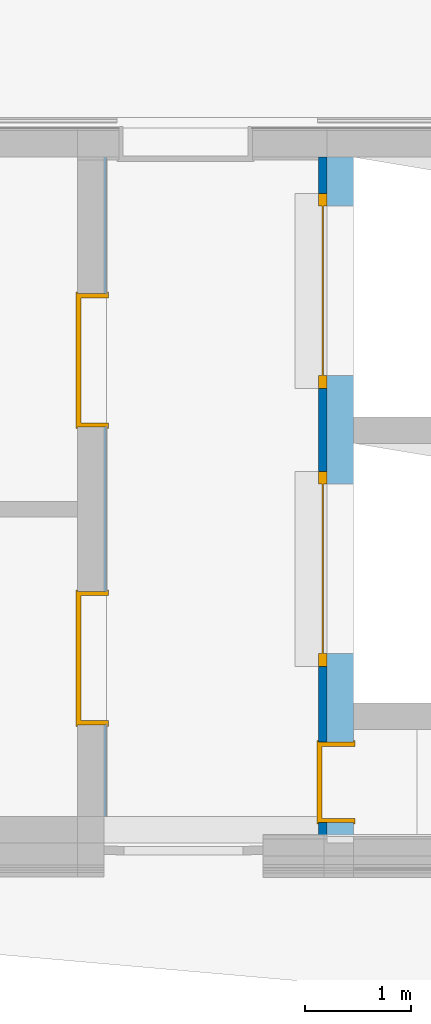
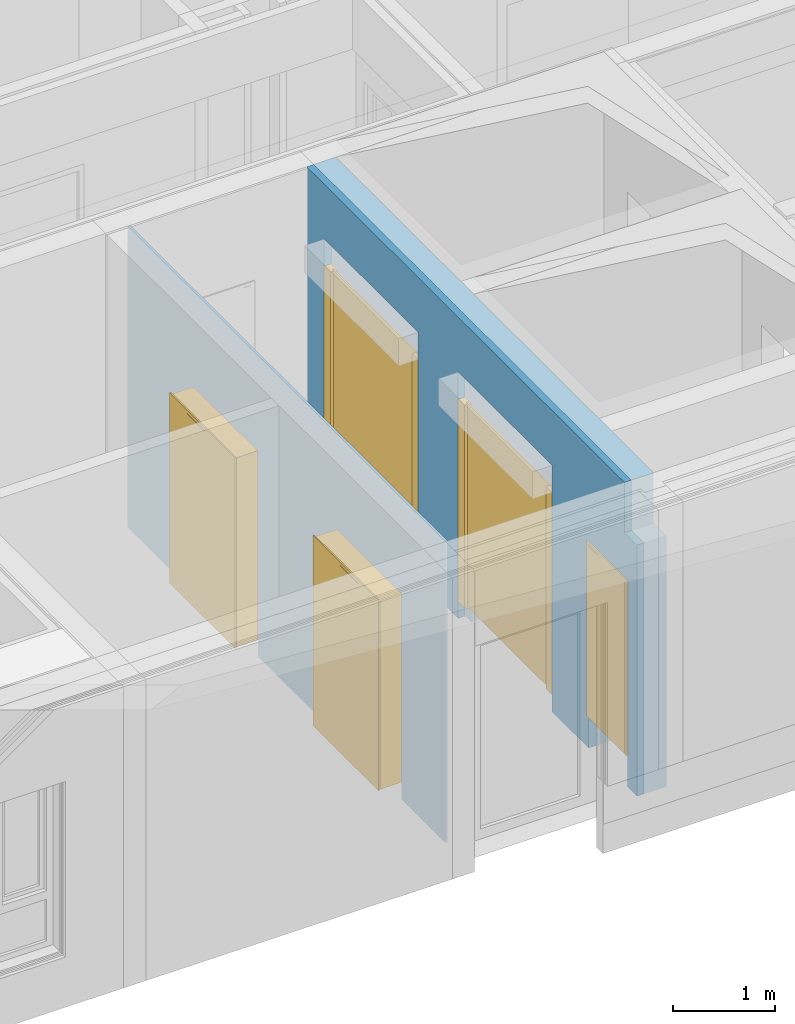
# One storey, part 88 of 207: 5 doors, 1 wall, 8 openings, plus 2 elements that do not belong to this part.
"""IFC4 building model written with IfcOpenShell, lengths in metres."""

from ifc_helpers import new_model, entity, si_unit, converted_unit, derived_unit, frame, frame_2d, origin, origin_with_axes, place, context, subcontext, project, spatial, polyline, rectangle, outline, extrude, clip, bounded_halfspace, faceted_brep, source, transform, mapped, material, type_object, element, fill, save


model = new_model("IFC4")

# Units and contexts
model_context = context("Model", 3, precision=1e-05, world=origin())
body_context = subcontext(model_context, "Body", "Model", "MODEL_VIEW")
ifc_project = project(units=[si_unit("LENGTHUNIT", "METRE"), si_unit("AREAUNIT", "SQUARE_METRE"), si_unit("VOLUMEUNIT", "CUBIC_METRE"), si_unit("MASSUNIT", "GRAM", prefix="KILO"), converted_unit("PLANEANGLEUNIT", "DEGREE", entity("IfcPlaneAngleMeasure", 0.0174532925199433), si_unit("PLANEANGLEUNIT", "RADIAN"), dimensions=[0, 0, 0, 0, 0, 0, 0]), derived_unit("THERMALTRANSMITTANCEUNIT", [(si_unit("POWERUNIT", "WATT"), 1), (si_unit("THERMODYNAMICTEMPERATUREUNIT", "KELVIN"), -1), (si_unit("LENGTHUNIT", "METRE"), -2)]), derived_unit("VOLUMETRICFLOWRATEUNIT", [(si_unit("LENGTHUNIT", "METRE"), 3), (converted_unit("TIMEUNIT", "hour", entity("IfcTimeMeasure", 3600.0), si_unit("TIMEUNIT", "SECOND"), dimensions=[0, 0, 1, 0, 0, 0, 0]), -1), (si_unit("LENGTHUNIT", "METRE"), -1)])], contexts=[model_context])

# Site, building, storey
site_placement = place(None, origin())
site = spatial("IfcSite", under=ifc_project, at=site_placement, Name="Psychiatrie Neubau Wunstorf", CompositionType="ELEMENT")
building_placement = place(site_placement, origin())
building = spatial("IfcBuilding", under=site, at=building_placement, Name="Neubau H2 Stationsgebäude", CompositionType="ELEMENT")
storey_placement = place(building_placement, frame((0.0, 0.0, -0.2)))
storey = spatial("IfcBuildingStorey", under=building, at=storey_placement, Name="H2 Ebene 0", CompositionType="ELEMENT", Elevation=-0.2)

# Wall, openings, doors
ifc_material_1 = material(Name="WI-LB")
wall_1_placement = place(storey_placement, frame((44.9410048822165, -5.94500030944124, 0.0), z_axis=(0.0, 0.0, 1.0), x_axis=(0.0, 1.0, 0.0)))
wall_1 = element("IfcWall", 1, at=wall_1_placement, inside=storey, material=ifc_material_1, context=body_context, shape_type="SweptSolid", body=[
    extrude(rectangle(XDim=6.22000030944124, YDim=0.025, at=frame_2d((3.11000015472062, 0.0125), x_axis=(1.0, 0.0))), origin_with_axes(), (0.0, 0.0, 1.0), 3.6),
])
opening_1_placement = place(wall_1_placement, frame((0.862499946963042, 0.0, 0.0), z_axis=(0.0, 1.0, 0.0), x_axis=(0.0, 0.0, 1.0)))
opening_1 = element("IfcOpeningElement", 2, at=opening_1_placement, cuts=wall_1, Name="SMT", ObjectType="Opening", context=body_context, shape_type="SweptSolid", body=[
    extrude(outline(polyline([(2.46, 1.26), (2.46, 0.0), (0.0, 0.0), (0.0, 1.26), (2.46, 1.26)])), origin_with_axes(), (0.0, 0.0, 1.0), 0.025),
])
opening_2_placement = place(wall_1_placement, frame((3.67249994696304, 0.0, 0.0), z_axis=(0.0, 1.0, 0.0), x_axis=(0.0, 0.0, 1.0)))
opening_2 = element("IfcOpeningElement", 3, at=opening_2_placement, cuts=wall_1, Name="SMT", ObjectType="Opening", context=body_context, shape_type="SweptSolid", body=[
    extrude(outline(polyline([(2.46, 1.26), (2.46, 0.0), (0.0, 0.0), (0.0, 1.26), (2.46, 1.26)])), origin_with_axes(), (0.0, 0.0, 1.0), 0.025),
])
ifc_material_2 = material(Name="TI-1F-UZ-ZK")
door_type_1 = type_object("IfcDoorType", Name="SMT", OperationType="SINGLE_SWING_RIGHT", ParameterTakesPrecedence=False, PredefinedType="DOOR")
shared_shape_1 = source(origin_with_axes(), body_context, "Body", "Brep", [
    faceted_brep([(1.26, -0.0149999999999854, 2.46), (1.26, -0.0149999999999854, 0.2), (1.22, -0.0149999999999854, 0.2), (1.22, -0.0149999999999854, 2.46), (1.26, 0.290000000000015, 0.2), (1.26, 0.290000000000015, 2.46), (1.22, 0.290000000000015, 2.46), (1.22, 0.290000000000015, 0.2)], [[[0, 1, 2, 3]], [[4, 5, 6, 7]], [[1, 0, 5, 4]], [[2, 1, 4, 7]], [[3, 2, 7, 6]], [[0, 3, 6, 5]]], orient=[[False], [False], [False], [False], [False], [False]]),
    faceted_brep([(1.26, -0.0149999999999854, 2.475), (1.275, -0.0149999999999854, 2.475), (1.275, -0.0149999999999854, 0.2), (1.26, -0.0149999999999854, 0.2), (1.26, 0.0, 0.2), (1.275, 0.0, 0.2), (1.275, 0.0, 2.475), (1.26, 0.0, 2.475)], [[[0, 1, 2, 3]], [[4, 5, 6, 7]], [[3, 4, 7, 0]], [[2, 5, 4, 3]], [[1, 6, 5, 2]], [[0, 7, 6, 1]]], orient=[[False], [False], [False], [False], [False], [False]]),
    faceted_brep([(1.26, 0.275000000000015, 2.475), (1.275, 0.275000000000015, 2.475), (1.275, 0.275000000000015, 0.2), (1.26, 0.275000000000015, 0.2), (1.26, 0.290000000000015, 0.2), (1.275, 0.290000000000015, 0.2), (1.275, 0.290000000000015, 2.475), (1.26, 0.290000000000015, 2.475)], [[[0, 1, 2, 3]], [[4, 5, 6, 7]], [[3, 4, 7, 0]], [[2, 5, 4, 3]], [[1, 6, 5, 2]], [[0, 7, 6, 1]]], orient=[[False], [False], [False], [False], [False], [False]]),
    faceted_brep([(0.0400000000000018, -0.0149999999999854, 2.46), (0.0400000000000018, -0.0149999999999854, 0.2), (0.0, -0.0149999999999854, 0.2), (0.0, -0.0149999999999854, 2.46), (0.0400000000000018, 0.290000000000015, 0.2), (0.0400000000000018, 0.290000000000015, 2.46), (0.0, 0.290000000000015, 2.46), (0.0, 0.290000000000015, 0.2)], [[[0, 1, 2, 3]], [[4, 5, 6, 7]], [[1, 0, 5, 4]], [[2, 1, 4, 7]], [[3, 2, 7, 6]], [[0, 3, 6, 5]]], orient=[[False], [False], [False], [False], [False], [False]]),
    faceted_brep([(0.0, -0.0149999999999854, 2.475), (0.0, -0.0149999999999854, 0.2), (-0.0149999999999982, -0.0149999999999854, 0.2), (-0.0149999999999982, -0.0149999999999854, 2.475), (0.0, 0.0, 0.2), (0.0, 0.0, 2.475), (-0.0149999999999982, 0.0, 2.475), (-0.0149999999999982, 0.0, 0.2)], [[[0, 1, 2, 3]], [[4, 5, 6, 7]], [[1, 0, 5, 4]], [[2, 1, 4, 7]], [[3, 2, 7, 6]], [[0, 3, 6, 5]]], orient=[[False], [False], [False], [False], [False], [False]]),
    faceted_brep([(0.0, 0.275000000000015, 2.475), (0.0, 0.275000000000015, 0.2), (-0.0149999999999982, 0.275000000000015, 0.2), (-0.0149999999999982, 0.275000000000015, 2.475), (0.0, 0.290000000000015, 0.2), (0.0, 0.290000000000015, 2.475), (-0.0149999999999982, 0.290000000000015, 2.475), (-0.0149999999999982, 0.290000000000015, 0.2)], [[[0, 1, 2, 3]], [[4, 5, 6, 7]], [[1, 0, 5, 4]], [[2, 1, 4, 7]], [[3, 2, 7, 6]], [[0, 3, 6, 5]]], orient=[[False], [False], [False], [False], [False], [False]]),
    faceted_brep([(1.22, -0.0149999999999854, 2.46), (1.22, -0.0149999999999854, 2.42), (0.0400000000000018, -0.0149999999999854, 2.42), (0.0400000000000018, -0.0149999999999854, 2.46), (1.22, 0.290000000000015, 2.42), (1.22, 0.290000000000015, 2.46), (0.0400000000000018, 0.290000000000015, 2.46), (0.0400000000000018, 0.290000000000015, 2.42)], [[[0, 1, 2, 3]], [[4, 5, 6, 7]], [[1, 0, 5, 4]], [[2, 1, 4, 7]], [[3, 2, 7, 6]], [[0, 3, 6, 5]]], orient=[[False], [False], [False], [False], [False], [False]]),
    faceted_brep([(1.26, -0.0149999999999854, 2.475), (1.26, -0.0149999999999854, 2.46), (0.0, -0.0149999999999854, 2.46), (0.0, -0.0149999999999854, 2.475), (1.26, 0.0, 2.46), (1.26, 0.0, 2.475), (0.0, 0.0, 2.475), (0.0, 0.0, 2.46)], [[[0, 1, 2, 3]], [[4, 5, 6, 7]], [[1, 0, 5, 4]], [[2, 1, 4, 7]], [[3, 2, 7, 6]], [[0, 3, 6, 5]]], orient=[[False], [False], [False], [False], [False], [False]]),
    faceted_brep([(1.26, 0.275000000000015, 2.475), (1.26, 0.275000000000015, 2.46), (0.0, 0.275000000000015, 2.46), (0.0, 0.275000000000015, 2.475), (1.26, 0.290000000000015, 2.46), (1.26, 0.290000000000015, 2.475), (0.0, 0.290000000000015, 2.475), (0.0, 0.290000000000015, 2.46)], [[[0, 1, 2, 3]], [[4, 5, 6, 7]], [[1, 0, 5, 4]], [[2, 1, 4, 7]], [[3, 2, 7, 6]], [[0, 3, 6, 5]]], orient=[[False], [False], [False], [False], [False], [False]]),
    faceted_brep([(1.235, 0.241000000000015, 2.435), (1.235, 0.241000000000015, 0.2), (0.0250000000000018, 0.241000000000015, 0.2), (0.0250000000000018, 0.241000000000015, 2.435), (1.235, 0.291000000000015, 0.2), (1.235, 0.291000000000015, 2.435), (0.0250000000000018, 0.291000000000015, 2.435), (0.0250000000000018, 0.291000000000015, 0.2)], [[[0, 1, 2, 3]], [[4, 5, 6, 7]], [[1, 0, 5, 4]], [[2, 1, 4, 7]], [[3, 2, 7, 6]], [[0, 3, 6, 5]]], orient=[[False], [False], [False], [False], [False], [False]]),
])
door_1_placement = place(opening_1_placement, frame((0.0, 0.0, 0.0), z_axis=(1.0, 0.0, 0.0), x_axis=(0.0, 1.0, 0.0)))
door_1 = element("IfcDoor", 4, at=door_1_placement, inside=storey, type_object=door_type_1, material=ifc_material_2, Name="SMT", OverallHeight=2.46, OverallWidth=1.26, context=body_context, shape_type="MappedRepresentation", body=[
    mapped(shared_shape_1, transform((0.0, 0.0, 0.0), x_axis=(1.0, 0.0, 0.0), y_axis=(0.0, 1.0, 0.0), z_axis=(0.0, 0.0, 1.0), scale=1.0)),
])
fill(opening_1, door_1)
ifc_material_3 = material(Name="TI-1F-UZ-ZK")
door_type_2 = type_object("IfcDoorType", Name="SMT", OperationType="SINGLE_SWING_RIGHT", ParameterTakesPrecedence=False, PredefinedType="DOOR")
shared_shape_2 = source(origin_with_axes(), body_context, "Body", "Brep", [
    faceted_brep([(0.0, -0.0149999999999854, 2.46), (0.0400000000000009, -0.0149999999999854, 2.46), (0.0400000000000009, -0.0149999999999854, 0.2), (0.0, -0.0149999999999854, 0.2), (0.0, 0.290000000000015, 0.2), (0.0400000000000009, 0.290000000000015, 0.2), (0.0400000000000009, 0.290000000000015, 2.46), (0.0, 0.290000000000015, 2.46)], [[[0, 1, 2, 3]], [[4, 5, 6, 7]], [[3, 4, 7, 0]], [[2, 5, 4, 3]], [[1, 6, 5, 2]], [[0, 7, 6, 1]]], orient=[[False], [False], [False], [False], [False], [False]]),
    faceted_brep([(0.0, -0.0149999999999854, 2.475), (0.0, -0.0149999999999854, 0.2), (-0.0149999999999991, -0.0149999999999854, 0.2), (-0.0149999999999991, -0.0149999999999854, 2.475), (0.0, 0.0, 0.2), (0.0, 0.0, 2.475), (-0.0149999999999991, 0.0, 2.475), (-0.0149999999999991, 0.0, 0.2)], [[[0, 1, 2, 3]], [[4, 5, 6, 7]], [[1, 0, 5, 4]], [[2, 1, 4, 7]], [[3, 2, 7, 6]], [[0, 3, 6, 5]]], orient=[[False], [False], [False], [False], [False], [False]]),
    faceted_brep([(0.0, 0.275000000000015, 2.475), (0.0, 0.275000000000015, 0.2), (-0.0149999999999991, 0.275000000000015, 0.2), (-0.0149999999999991, 0.275000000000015, 2.475), (0.0, 0.290000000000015, 0.2), (0.0, 0.290000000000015, 2.475), (-0.0149999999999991, 0.290000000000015, 2.475), (-0.0149999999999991, 0.290000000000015, 0.2)], [[[0, 1, 2, 3]], [[4, 5, 6, 7]], [[1, 0, 5, 4]], [[2, 1, 4, 7]], [[3, 2, 7, 6]], [[0, 3, 6, 5]]], orient=[[False], [False], [False], [False], [False], [False]]),
    faceted_brep([(1.22, -0.0149999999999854, 2.46), (1.26, -0.0149999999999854, 2.46), (1.26, -0.0149999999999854, 0.2), (1.22, -0.0149999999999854, 0.2), (1.22, 0.290000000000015, 0.2), (1.26, 0.290000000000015, 0.2), (1.26, 0.290000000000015, 2.46), (1.22, 0.290000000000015, 2.46)], [[[0, 1, 2, 3]], [[4, 5, 6, 7]], [[3, 4, 7, 0]], [[2, 5, 4, 3]], [[1, 6, 5, 2]], [[0, 7, 6, 1]]], orient=[[False], [False], [False], [False], [False], [False]]),
    faceted_brep([(1.26, -0.0149999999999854, 2.475), (1.275, -0.0149999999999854, 2.475), (1.275, -0.0149999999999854, 0.2), (1.26, -0.0149999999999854, 0.2), (1.26, 0.0, 0.2), (1.275, 0.0, 0.2), (1.275, 0.0, 2.475), (1.26, 0.0, 2.475)], [[[0, 1, 2, 3]], [[4, 5, 6, 7]], [[3, 4, 7, 0]], [[2, 5, 4, 3]], [[1, 6, 5, 2]], [[0, 7, 6, 1]]], orient=[[False], [False], [False], [False], [False], [False]]),
    faceted_brep([(1.26, 0.275000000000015, 2.475), (1.275, 0.275000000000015, 2.475), (1.275, 0.275000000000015, 0.2), (1.26, 0.275000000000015, 0.2), (1.26, 0.290000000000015, 0.2), (1.275, 0.290000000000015, 0.2), (1.275, 0.290000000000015, 2.475), (1.26, 0.290000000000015, 2.475)], [[[0, 1, 2, 3]], [[4, 5, 6, 7]], [[3, 4, 7, 0]], [[2, 5, 4, 3]], [[1, 6, 5, 2]], [[0, 7, 6, 1]]], orient=[[False], [False], [False], [False], [False], [False]]),
    faceted_brep([(0.0400000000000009, -0.0149999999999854, 2.46), (1.22, -0.0149999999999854, 2.46), (1.22, -0.0149999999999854, 2.42), (0.0400000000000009, -0.0149999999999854, 2.42), (0.0400000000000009, 0.290000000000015, 2.42), (1.22, 0.290000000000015, 2.42), (1.22, 0.290000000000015, 2.46), (0.0400000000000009, 0.290000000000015, 2.46)], [[[0, 1, 2, 3]], [[4, 5, 6, 7]], [[3, 4, 7, 0]], [[2, 5, 4, 3]], [[1, 6, 5, 2]], [[0, 7, 6, 1]]], orient=[[False], [False], [False], [False], [False], [False]]),
    faceted_brep([(0.0, -0.0149999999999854, 2.475), (1.26, -0.0149999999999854, 2.475), (1.26, -0.0149999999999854, 2.46), (0.0, -0.0149999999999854, 2.46), (0.0, 0.0, 2.46), (1.26, 0.0, 2.46), (1.26, 0.0, 2.475), (0.0, 0.0, 2.475)], [[[0, 1, 2, 3]], [[4, 5, 6, 7]], [[3, 4, 7, 0]], [[2, 5, 4, 3]], [[1, 6, 5, 2]], [[0, 7, 6, 1]]], orient=[[False], [False], [False], [False], [False], [False]]),
    faceted_brep([(0.0, 0.275000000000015, 2.475), (1.26, 0.275000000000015, 2.475), (1.26, 0.275000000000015, 2.46), (0.0, 0.275000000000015, 2.46), (0.0, 0.290000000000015, 2.46), (1.26, 0.290000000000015, 2.46), (1.26, 0.290000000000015, 2.475), (0.0, 0.290000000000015, 2.475)], [[[0, 1, 2, 3]], [[4, 5, 6, 7]], [[3, 4, 7, 0]], [[2, 5, 4, 3]], [[1, 6, 5, 2]], [[0, 7, 6, 1]]], orient=[[False], [False], [False], [False], [False], [False]]),
    faceted_brep([(0.0250000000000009, 0.241000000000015, 2.435), (1.235, 0.241000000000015, 2.435), (1.235, 0.241000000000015, 0.2), (0.0250000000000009, 0.241000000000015, 0.2), (0.0250000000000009, 0.291000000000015, 0.2), (1.235, 0.291000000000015, 0.2), (1.235, 0.291000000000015, 2.435), (0.0250000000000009, 0.291000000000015, 2.435)], [[[0, 1, 2, 3]], [[4, 5, 6, 7]], [[3, 4, 7, 0]], [[2, 5, 4, 3]], [[1, 6, 5, 2]], [[0, 7, 6, 1]]], orient=[[False], [False], [False], [False], [False], [False]]),
])
door_2_placement = place(opening_2_placement, frame((0.0, 0.0, 0.0), z_axis=(1.0, 0.0, 0.0), x_axis=(0.0, 1.0, 0.0)))
door_2 = element("IfcDoor", 5, at=door_2_placement, inside=storey, type_object=door_type_2, material=ifc_material_3, Name="SMT", OverallHeight=2.46, OverallWidth=1.26, context=body_context, shape_type="MappedRepresentation", body=[
    mapped(shared_shape_2, transform((0.0, 0.0, 0.0), x_axis=(1.0, 0.0, 0.0), y_axis=(0.0, 1.0, 0.0), z_axis=(0.0, 0.0, 1.0), scale=1.0)),
])
fill(opening_2, door_2)

# Wall, openings, door
ifc_material_4 = material(Name="WI-STB")
wall_2_placement = place(storey_placement, frame((47.2700048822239, -6.19500030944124, 0.0), z_axis=(0.0, 0.0, 1.0), x_axis=(0.0, 1.0, 0.0)))
wall_2 = element("IfcWall", 6, at=wall_2_placement, inside=storey, material=ifc_material_4, context=body_context, shape_type="Clipping", body=[
    clip(extrude(rectangle(XDim=6.47000030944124, YDim=0.25, at=frame_2d((3.23500015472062, 0.125), x_axis=(1.0, 0.0))), origin_with_axes(), (0.0, 0.0, 1.0), 3.6), bounded_halfspace(frame((0.125, 0.125, 3.0), z_axis=(0.0, 0.0, -1.0), x_axis=(-1.0, 0.0, 0.0)), True, origin_with_axes(), polyline([(0.25, 0.25), (0.0, 0.25), (0.0, 0.0), (0.25, 0.0), (0.25, 0.25)]))),
])
opening_3_placement = place(wall_2_placement, frame((6.00764812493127, 0.25, 0.0), z_axis=(0.0, -1.0, 0.0), x_axis=(0.0, 0.0, 1.0)))
element("IfcOpeningElement", 7, at=opening_3_placement, cuts=wall_2, Name="Türöffnung", ObjectType="Opening", context=body_context, shape_type="SweptSolid", body=[
    extrude(outline(polyline([(2.45, 1.6), (2.45, 0.0), (0.0, 0.0), (0.0, 1.6), (2.45, 1.6)])), origin_with_axes(), (0.0, 0.0, 1.0), 0.25),
])
opening_4_placement = place(wall_2_placement, frame((3.38501220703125, 0.25, 0.0), z_axis=(0.0, -1.0, 0.0), x_axis=(0.0, 0.0, 1.0)))
element("IfcOpeningElement", 8, at=opening_4_placement, cuts=wall_2, Name="Türöffnung", ObjectType="Opening", context=body_context, shape_type="SweptSolid", body=[
    extrude(outline(polyline([(2.45, 1.6), (2.45, 0.0), (0.0, 0.0), (0.0, 1.6), (2.45, 1.6)])), origin_with_axes(), (0.0, 0.0, 1.0), 0.25),
])
opening_5_placement = place(wall_2_placement, frame((0.951, 0.25, 0.0), z_axis=(0.0, -1.0, 0.0), x_axis=(0.0, 0.0, 1.0)))
opening_5 = element("IfcOpeningElement", 9, at=opening_5_placement, cuts=wall_2, Name="Türöffnung", ObjectType="Opening", context=body_context, shape_type="SweptSolid", body=[
    extrude(outline(polyline([(2.46, 0.76), (2.46, 0.0), (0.0, 0.0), (0.0, 0.76), (2.46, 0.76)])), origin_with_axes(), (0.0, 0.0, 1.0), 0.25),
])
ifc_material_5 = material(Name="TI-1F-UZ-D")
door_type_3 = type_object("IfcDoorType", Name="SMT", OperationType="SINGLE_SWING_RIGHT", ParameterTakesPrecedence=False, PredefinedType="DOOR")
shared_shape_3 = source(origin_with_axes(), body_context, "Body", "Brep", [
    faceted_brep([(0.0, -0.0149999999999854, 2.46), (0.0400000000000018, -0.0149999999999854, 2.46), (0.0400000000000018, -0.0149999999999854, 0.38), (0.0, -0.0149999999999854, 0.38), (0.0, 0.345000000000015, 0.38), (0.0400000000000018, 0.345000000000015, 0.38), (0.0400000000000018, 0.345000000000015, 2.46), (0.0, 0.345000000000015, 2.46)], [[[0, 1, 2, 3]], [[4, 5, 6, 7]], [[3, 4, 7, 0]], [[2, 5, 4, 3]], [[1, 6, 5, 2]], [[0, 7, 6, 1]]], orient=[[False], [False], [False], [False], [False], [False]]),
    faceted_brep([(0.0, -0.0149999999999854, 2.475), (0.0, -0.0149999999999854, 0.38), (-0.0149999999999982, -0.0149999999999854, 0.38), (-0.0149999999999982, -0.0149999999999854, 2.475), (0.0, 0.0, 0.38), (0.0, 0.0, 2.475), (-0.0149999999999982, 0.0, 2.475), (-0.0149999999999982, 0.0, 0.38)], [[[0, 1, 2, 3]], [[4, 5, 6, 7]], [[1, 0, 5, 4]], [[2, 1, 4, 7]], [[3, 2, 7, 6]], [[0, 3, 6, 5]]], orient=[[False], [False], [False], [False], [False], [False]]),
    faceted_brep([(0.0, 0.330000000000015, 2.475), (0.0, 0.330000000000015, 0.38), (-0.0149999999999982, 0.330000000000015, 0.38), (-0.0149999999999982, 0.330000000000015, 2.475), (0.0, 0.345000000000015, 0.38), (0.0, 0.345000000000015, 2.475), (-0.0149999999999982, 0.345000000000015, 2.475), (-0.0149999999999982, 0.345000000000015, 0.38)], [[[0, 1, 2, 3]], [[4, 5, 6, 7]], [[1, 0, 5, 4]], [[2, 1, 4, 7]], [[3, 2, 7, 6]], [[0, 3, 6, 5]]], orient=[[False], [False], [False], [False], [False], [False]]),
    faceted_brep([(0.720000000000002, -0.0149999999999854, 2.46), (0.760000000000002, -0.0149999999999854, 2.46), (0.760000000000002, -0.0149999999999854, 0.38), (0.720000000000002, -0.0149999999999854, 0.38), (0.720000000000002, 0.345000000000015, 0.38), (0.760000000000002, 0.345000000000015, 0.38), (0.760000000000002, 0.345000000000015, 2.46), (0.720000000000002, 0.345000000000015, 2.46)], [[[0, 1, 2, 3]], [[4, 5, 6, 7]], [[3, 4, 7, 0]], [[2, 5, 4, 3]], [[1, 6, 5, 2]], [[0, 7, 6, 1]]], orient=[[False], [False], [False], [False], [False], [False]]),
    faceted_brep([(0.760000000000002, -0.0149999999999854, 2.475), (0.775000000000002, -0.0149999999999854, 2.475), (0.775000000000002, -0.0149999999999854, 0.38), (0.760000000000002, -0.0149999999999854, 0.38), (0.760000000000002, 0.0, 0.38), (0.775000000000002, 0.0, 0.38), (0.775000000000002, 0.0, 2.475), (0.760000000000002, 0.0, 2.475)], [[[0, 1, 2, 3]], [[4, 5, 6, 7]], [[3, 4, 7, 0]], [[2, 5, 4, 3]], [[1, 6, 5, 2]], [[0, 7, 6, 1]]], orient=[[False], [False], [False], [False], [False], [False]]),
    faceted_brep([(0.760000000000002, 0.330000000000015, 2.475), (0.775000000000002, 0.330000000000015, 2.475), (0.775000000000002, 0.330000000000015, 0.38), (0.760000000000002, 0.330000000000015, 0.38), (0.760000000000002, 0.345000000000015, 0.38), (0.775000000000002, 0.345000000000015, 0.38), (0.775000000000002, 0.345000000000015, 2.475), (0.760000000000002, 0.345000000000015, 2.475)], [[[0, 1, 2, 3]], [[4, 5, 6, 7]], [[3, 4, 7, 0]], [[2, 5, 4, 3]], [[1, 6, 5, 2]], [[0, 7, 6, 1]]], orient=[[False], [False], [False], [False], [False], [False]]),
    faceted_brep([(0.0400000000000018, -0.0149999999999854, 2.46), (0.720000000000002, -0.0149999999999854, 2.46), (0.720000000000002, -0.0149999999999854, 2.42), (0.0400000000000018, -0.0149999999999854, 2.42), (0.0400000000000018, 0.345000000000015, 2.42), (0.720000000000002, 0.345000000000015, 2.42), (0.720000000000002, 0.345000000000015, 2.46), (0.0400000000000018, 0.345000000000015, 2.46)], [[[0, 1, 2, 3]], [[4, 5, 6, 7]], [[3, 4, 7, 0]], [[2, 5, 4, 3]], [[1, 6, 5, 2]], [[0, 7, 6, 1]]], orient=[[False], [False], [False], [False], [False], [False]]),
    faceted_brep([(0.0, -0.0149999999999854, 2.475), (0.760000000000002, -0.0149999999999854, 2.475), (0.760000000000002, -0.0149999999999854, 2.46), (0.0, -0.0149999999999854, 2.46), (0.0, 0.0, 2.46), (0.760000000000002, 0.0, 2.46), (0.760000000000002, 0.0, 2.475), (0.0, 0.0, 2.475)], [[[0, 1, 2, 3]], [[4, 5, 6, 7]], [[3, 4, 7, 0]], [[2, 5, 4, 3]], [[1, 6, 5, 2]], [[0, 7, 6, 1]]], orient=[[False], [False], [False], [False], [False], [False]]),
    faceted_brep([(0.0, 0.330000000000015, 2.475), (0.760000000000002, 0.330000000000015, 2.475), (0.760000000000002, 0.330000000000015, 2.46), (0.0, 0.330000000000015, 2.46), (0.0, 0.345000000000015, 2.46), (0.760000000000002, 0.345000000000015, 2.46), (0.760000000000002, 0.345000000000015, 2.475), (0.0, 0.345000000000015, 2.475)], [[[0, 1, 2, 3]], [[4, 5, 6, 7]], [[3, 4, 7, 0]], [[2, 5, 4, 3]], [[1, 6, 5, 2]], [[0, 7, 6, 1]]], orient=[[False], [False], [False], [False], [False], [False]]),
    faceted_brep([(0.0250000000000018, 0.296000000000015, 2.435), (0.735000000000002, 0.296000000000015, 2.435), (0.735000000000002, 0.296000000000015, 0.38), (0.0250000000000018, 0.296000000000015, 0.38), (0.0250000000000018, 0.346000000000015, 0.38), (0.735000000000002, 0.346000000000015, 0.38), (0.735000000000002, 0.346000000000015, 2.435), (0.0250000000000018, 0.346000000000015, 2.435)], [[[0, 1, 2, 3]], [[4, 5, 6, 7]], [[3, 4, 7, 0]], [[2, 5, 4, 3]], [[1, 6, 5, 2]], [[0, 7, 6, 1]]], orient=[[False], [False], [False], [False], [False], [False]]),
])
door_3_placement = place(opening_5_placement, frame((0.0, 0.76, 0.25), z_axis=(1.0, 0.0, 0.0), x_axis=(0.0, -1.0, 0.0)))
door_3 = element("IfcDoor", 10, at=door_3_placement, inside=storey, type_object=door_type_3, material=ifc_material_5, Name="SMT", OverallHeight=2.46, OverallWidth=0.76, context=body_context, shape_type="MappedRepresentation", body=[
    mapped(shared_shape_3, transform((0.0, 0.0, 0.0), x_axis=(1.0, 0.0, 0.0), y_axis=(0.0, 1.0, 0.0), z_axis=(0.0, 0.0, 1.0), scale=1.0)),
])
fill(opening_5, door_3)

# Wall, openings, doors
ifc_material_6 = material(Name="WI-LB")
wall_3_placement = place(storey_placement, frame((46.9400048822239, -6.19500030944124, 0.0)))
wall_3 = element("IfcWall", 11, at=wall_3_placement, inside=storey, material=ifc_material_6, context=body_context, shape_type="Brep", body=[
    faceted_brep([(0.08, 0.25, 3.6), (0.08, 0.25, 3.0), (0.0, 0.25, 3.0), (0.0, 0.25, 3.6), (0.08, 0.0, 3.0), (0.0, 0.0, 3.0), (0.08, 3.50501220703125, 2.62), (0.08, 1.66501220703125, 2.62), (0.0, 1.66501220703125, 2.62), (0.0, 3.50501220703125, 2.62), (0.0, 3.50501220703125, 2.945), (0.0, 1.66501220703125, 2.945), (0.08, 1.66501220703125, 2.945), (0.08, 3.50501220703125, 2.945), (0.08, 6.12764812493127, 2.62), (0.08, 4.28764812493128, 2.62), (0.0, 4.28764812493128, 2.62), (0.0, 6.12764812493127, 2.62), (0.0, 6.12764812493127, 2.945), (0.0, 4.28764812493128, 2.945), (0.08, 4.28764812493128, 2.945), (0.08, 6.12764812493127, 2.945), (0.0, 6.47000030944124, 3.6), (0.08, 6.47000030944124, 3.6), (0.0, 0.0, 0.0), (0.0, 6.47000030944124, 0.0), (0.08, 6.47000030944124, 0.0), (0.08, 0.0, 0.0)], [[[0, 1, 2, 3]], [[2, 1, 4, 5]], [[6, 7, 8, 9]], [[10, 11, 12, 13]], [[13, 6, 9, 10]], [[11, 8, 7, 12]], [[14, 15, 16, 17]], [[18, 19, 20, 21]], [[21, 14, 17, 18]], [[19, 16, 15, 20]], [[22, 23, 0, 3]], [[5, 24, 25, 22, 3, 2], [8, 11, 10, 9], [16, 19, 18, 17]], [[25, 26, 23, 22]], [[1, 0, 23, 26, 27, 4], [6, 13, 12, 7], [14, 21, 20, 15]], [[4, 27, 24, 5]], [[24, 27, 26, 25]]], orient=[[False], [False], [False], [False], [False], [False], [False], [False], [False], [False], [False], [False, False, False], [False], [False, False, False], [False], [False]]),
])
opening_6_placement = place(wall_3_placement, frame((0.0, 3.50501220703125, 0.0), z_axis=(1.0, 0.0, 0.0), x_axis=(0.0, 0.0, 1.0)))
opening_6 = element("IfcOpeningElement", 12, at=opening_6_placement, cuts=wall_3, Name="Türöffnung", ObjectType="Opening", context=body_context, shape_type="SweptSolid", body=[
    extrude(outline(polyline([(2.62, 1.84), (2.62, 0.0), (0.0, 0.0), (0.0, 1.84), (2.62, 1.84)])), origin_with_axes(), (0.0, 0.0, 1.0), 0.08),
])
opening_7_placement = place(wall_3_placement, frame((0.0, 0.951, 0.0), z_axis=(1.0, 0.0, 0.0), x_axis=(0.0, 0.0, 1.0)))
element("IfcOpeningElement", 13, at=opening_7_placement, cuts=wall_3, Name="Türöffnung", ObjectType="Opening", context=body_context, shape_type="SweptSolid", body=[
    extrude(outline(polyline([(2.46, 0.76), (2.46, 0.0), (0.0, 0.0), (0.0, 0.76), (2.46, 0.76)])), origin_with_axes(), (0.0, 0.0, 1.0), 0.08),
])
opening_8_placement = place(wall_3_placement, frame((0.0, 6.12764812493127, 0.0), z_axis=(1.0, 0.0, 0.0), x_axis=(0.0, 0.0, 1.0)))
opening_8 = element("IfcOpeningElement", 14, at=opening_8_placement, cuts=wall_3, Name="Türöffnung", ObjectType="Opening", context=body_context, shape_type="SweptSolid", body=[
    extrude(outline(polyline([(2.62, 1.84), (2.62, 0.0), (0.0, 0.0), (0.0, 1.84), (2.62, 1.84)])), origin_with_axes(), (0.0, 0.0, 1.0), 0.08),
])
ifc_material_7 = material(Name="TI-1F-UZ-M-ZK")
shared_shape_4 = source(origin_with_axes(), body_context, "Body", "Brep", [
    faceted_brep([(1.63456423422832, 0.0150516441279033, 2.62), (1.63456423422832, 0.0150516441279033, 0.2), (1.51456423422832, 0.0150516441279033, 0.2), (1.51456423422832, 0.0150516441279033, 2.62), (1.63456423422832, 0.0950516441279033, 0.2), (1.63456423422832, 0.0950516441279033, 2.62), (1.51456423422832, 0.0950516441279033, 2.62), (1.51456423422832, 0.0950516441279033, 0.2)], [[[0, 1, 2, 3]], [[4, 5, 6, 7]], [[1, 0, 5, 4]], [[2, 1, 4, 7]], [[3, 2, 7, 6]], [[0, 3, 6, 5]]], orient=[[False], [False], [False], [False], [False], [False]]),
    faceted_brep([(-0.0854357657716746, 0.0150516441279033, 2.62), (-0.0854357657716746, 0.0150516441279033, 0.2), (-0.205435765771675, 0.0150516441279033, 0.2), (-0.205435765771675, 0.0150516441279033, 2.62), (-0.0854357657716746, 0.0950516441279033, 0.2), (-0.0854357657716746, 0.0950516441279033, 2.62), (-0.205435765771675, 0.0950516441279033, 2.62), (-0.205435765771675, 0.0950516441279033, 0.2)], [[[0, 1, 2, 3]], [[4, 5, 6, 7]], [[1, 0, 5, 4]], [[2, 1, 4, 7]], [[3, 2, 7, 6]], [[0, 3, 6, 5]]], orient=[[False], [False], [False], [False], [False], [False]]),
    faceted_brep([(1.52956423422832, 0.0460516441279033, 2.635), (1.52956423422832, 0.0460516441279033, 0.2), (-0.100435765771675, 0.0460516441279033, 0.2), (-0.100435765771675, 0.0460516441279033, 2.635), (1.52956423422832, 0.0610516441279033, 0.2), (1.52956423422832, 0.0610516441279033, 2.635), (-0.100435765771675, 0.0610516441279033, 2.635), (-0.100435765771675, 0.0610516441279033, 0.2)], [[[0, 1, 2, 3]], [[4, 5, 6, 7]], [[1, 0, 5, 4]], [[2, 1, 4, 7]], [[3, 2, 7, 6]], [[0, 3, 6, 5]]], orient=[[False], [False], [False], [False], [False], [False]]),
])
door_4_placement = place(opening_6_placement, frame((0.0, 1.63456423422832, 0.0950516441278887), z_axis=(1.0, 0.0, 0.0), x_axis=(0.0, -1.0, 0.0)))
door_4 = element("IfcDoor", 15, at=door_4_placement, inside=storey, material=ifc_material_7, Name="FS-Vorhang", OperationType="USERDEFINED", OverallHeight=2.62, OverallWidth=1.84, PredefinedType="DOOR", context=body_context, shape_type="MappedRepresentation", body=[
    mapped(shared_shape_4, transform((0.0, 0.0, 0.0), x_axis=(1.0, 0.0, 0.0), y_axis=(0.0, 1.0, 0.0), z_axis=(0.0, 0.0, 1.0), scale=1.0)),
])
fill(opening_6, door_4)
ifc_material_8 = material(Name="TI-1F-UZ-M-ZK")
shared_shape_5 = source(origin_with_axes(), body_context, "Body", "Brep", [
    faceted_brep([(1.63456423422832, 0.0150516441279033, 2.62), (1.63456423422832, 0.0150516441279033, 0.2), (1.51456423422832, 0.0150516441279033, 0.2), (1.51456423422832, 0.0150516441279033, 2.62), (1.63456423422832, 0.0950516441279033, 0.2), (1.63456423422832, 0.0950516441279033, 2.62), (1.51456423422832, 0.0950516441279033, 2.62), (1.51456423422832, 0.0950516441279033, 0.2)], [[[0, 1, 2, 3]], [[4, 5, 6, 7]], [[1, 0, 5, 4]], [[2, 1, 4, 7]], [[3, 2, 7, 6]], [[0, 3, 6, 5]]], orient=[[False], [False], [False], [False], [False], [False]]),
    faceted_brep([(-0.085435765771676, 0.0150516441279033, 2.62), (-0.085435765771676, 0.0150516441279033, 0.2), (-0.205435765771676, 0.0150516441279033, 0.2), (-0.205435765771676, 0.0150516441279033, 2.62), (-0.085435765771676, 0.0950516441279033, 0.2), (-0.085435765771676, 0.0950516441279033, 2.62), (-0.205435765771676, 0.0950516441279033, 2.62), (-0.205435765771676, 0.0950516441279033, 0.2)], [[[0, 1, 2, 3]], [[4, 5, 6, 7]], [[1, 0, 5, 4]], [[2, 1, 4, 7]], [[3, 2, 7, 6]], [[0, 3, 6, 5]]], orient=[[False], [False], [False], [False], [False], [False]]),
    faceted_brep([(1.52956423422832, 0.0460516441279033, 2.635), (1.52956423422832, 0.0460516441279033, 0.2), (-0.100435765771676, 0.0460516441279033, 0.2), (-0.100435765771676, 0.0460516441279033, 2.635), (1.52956423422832, 0.0610516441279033, 0.2), (1.52956423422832, 0.0610516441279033, 2.635), (-0.100435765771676, 0.0610516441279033, 2.635), (-0.100435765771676, 0.0610516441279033, 0.2)], [[[0, 1, 2, 3]], [[4, 5, 6, 7]], [[1, 0, 5, 4]], [[2, 1, 4, 7]], [[3, 2, 7, 6]], [[0, 3, 6, 5]]], orient=[[False], [False], [False], [False], [False], [False]]),
])
door_5_placement = place(opening_8_placement, frame((0.0, 1.63456423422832, 0.0950516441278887), z_axis=(1.0, 0.0, 0.0), x_axis=(0.0, -1.0, 0.0)))
door_5 = element("IfcDoor", 16, at=door_5_placement, inside=storey, material=ifc_material_8, Name="FS-Vorhang", OperationType="USERDEFINED", OverallHeight=2.62, OverallWidth=1.84, PredefinedType="DOOR", context=body_context, shape_type="MappedRepresentation", body=[
    mapped(shared_shape_5, transform((0.0, 0.0, 0.0), x_axis=(1.0, 0.0, 0.0), y_axis=(0.0, 1.0, 0.0), z_axis=(0.0, 0.0, 1.0), scale=1.0)),
])
fill(opening_8, door_5)

save(model, "model.ifc")
